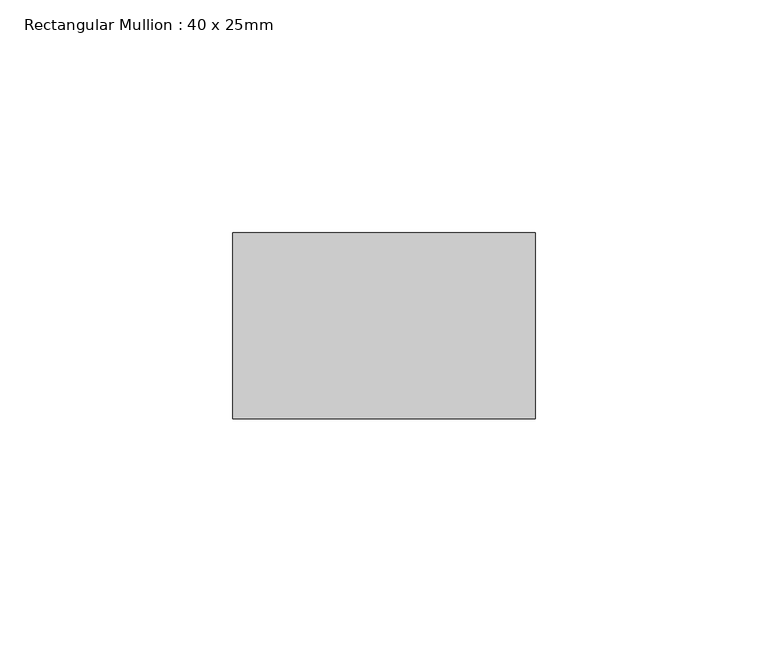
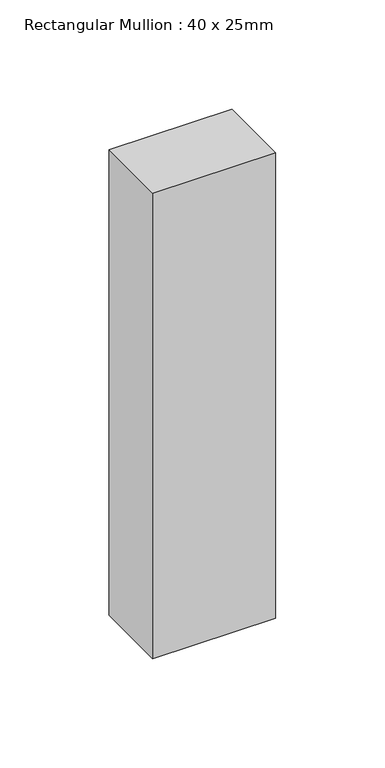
"""IFC4 building model written with IfcOpenShell, lengths in millimetres: member geometry, Rectangular Mullion : 40 x 25mm."""

from ifc_helpers import new_model, si_unit, frame, origin, place, context, project, spatial, polyline, outline, extrude, source, transform, mapped, element, save


def rectangular_mullion_40_x_25mm_dc762957(model_context):
    return source(origin(), model_context, "Body", "SweptSolid", [
        extrude(outline(polyline([(40.0, -20.0), (40.0, -60.0), (-25.0, -60.0), (-25.0, -20.0), (40.0, -20.0)])), frame((0.0, 0.0, -260.0), z_axis=(0.0, 0.0, 1.0), x_axis=(1.0, 0.0, 0.0)), (0.0, 0.0, 1.0), 260.0),
    ])


if __name__ == "__main__":
    model = new_model("IFC4")
    model_context = context("Model", 3, world=origin())
    ifc_project = project(units=[si_unit("LENGTHUNIT", "METRE", prefix="MILLI")], contexts=[model_context])
    site = spatial("IfcSite", under=ifc_project)
    building = spatial("IfcBuilding", under=site)
    placement = place(None, origin())
    rectangular_mullion_40_x_25mm_shape = rectangular_mullion_40_x_25mm_dc762957(model_context)
    element("IfcMember", 1, ObjectType="Rectangular Mullion : 40 x 25mm", at=placement, inside=building, context=model_context, shape_type="MappedRepresentation", body=[
        mapped(rectangular_mullion_40_x_25mm_shape, transform((0.0, 0.0, 0.0), x_axis=(1.0, 0.0, 0.0), y_axis=(0.0, 1.0, 0.0), z_axis=(0.0, 0.0, 1.0))),
    ])
    save(model, "model.ifc")
